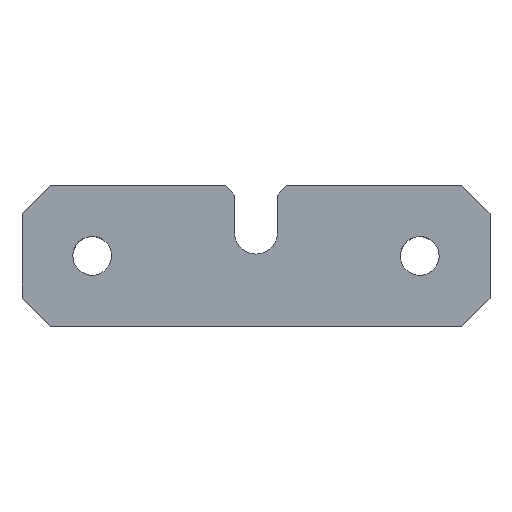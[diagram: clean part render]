
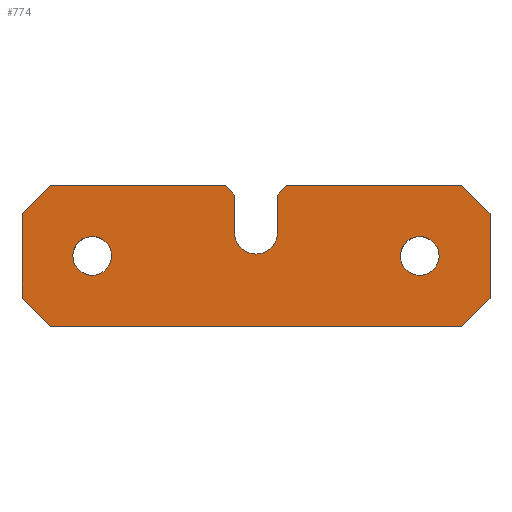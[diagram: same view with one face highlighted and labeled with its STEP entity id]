
A CAD part, top view. The second image highlights one B-rep face of the part: STEP entity #774.
In plain terms, the highlighted planar face has unit normal (0, 0, 1).
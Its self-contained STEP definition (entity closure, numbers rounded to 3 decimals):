
#61=CARTESIAN_POINT('Vertex',(19.314,-1.509,30.)) ;
#66=CARTESIAN_POINT('Axis2P3D Location',(17.5,-2.5,30.)) ;
#70=CARTESIAN_POINT('Vertex',(15.686,-3.491,30.)) ;
#92=CARTESIAN_POINT('Axis2P3D Location',(17.5,-2.5,30.)) ;
#127=CARTESIAN_POINT('Vertex',(-2.3,0.,30.)) ;
#130=CARTESIAN_POINT('Axis2P3D Location',(0.,0.,30.)) ;
#134=CARTESIAN_POINT('Vertex',(2.3,0.,30.)) ;
#260=CARTESIAN_POINT('Vertex',(-19.314,-3.491,30.)) ;
#265=CARTESIAN_POINT('Axis2P3D Location',(-17.5,-2.5,30.)) ;
#269=CARTESIAN_POINT('Vertex',(-15.686,-1.509,30.)) ;
#291=CARTESIAN_POINT('Axis2P3D Location',(-17.5,-2.5,30.)) ;
#317=CARTESIAN_POINT('Vertex',(22.,5.,30.)) ;
#322=CARTESIAN_POINT('Line Origine',(23.5,3.5,30.)) ;
#326=CARTESIAN_POINT('Vertex',(25.,2.,30.)) ;
#357=CARTESIAN_POINT('Vertex',(25.,-7.,30.)) ;
#367=CARTESIAN_POINT('Line Origine',(25.,-2.5,30.)) ;
#391=CARTESIAN_POINT('Line Origine',(23.5,-8.5,30.)) ;
#395=CARTESIAN_POINT('Vertex',(22.,-10.,30.)) ;
#419=CARTESIAN_POINT('Vertex',(-25.,2.,30.)) ;
#424=CARTESIAN_POINT('Line Origine',(-23.5,3.5,30.)) ;
#428=CARTESIAN_POINT('Vertex',(-22.,5.,30.)) ;
#462=CARTESIAN_POINT('Line Origine',(0.,-10.,30.)) ;
#466=CARTESIAN_POINT('Vertex',(-22.,-10.,30.)) ;
#490=CARTESIAN_POINT('Vertex',(-25.,-7.,30.)) ;
#495=CARTESIAN_POINT('Line Origine',(-25.,-2.5,30.)) ;
#560=CARTESIAN_POINT('Line Origine',(-23.5,-8.5,30.)) ;
#583=CARTESIAN_POINT('Vertex',(2.3,4.,30.)) ;
#591=CARTESIAN_POINT('Line Origine',(2.3,2.,30.)) ;
#614=CARTESIAN_POINT('Vertex',(3.3,5.,30.)) ;
#617=CARTESIAN_POINT('Line Origine',(12.65,5.,30.)) ;
#646=CARTESIAN_POINT('Line Origine',(2.8,4.5,30.)) ;
#663=CARTESIAN_POINT('Line Origine',(-2.3,2.,30.)) ;
#667=CARTESIAN_POINT('Vertex',(-2.3,4.,30.)) ;
#695=CARTESIAN_POINT('Vertex',(-3.3,5.,30.)) ;
#703=CARTESIAN_POINT('Line Origine',(-12.65,5.,30.)) ;
#740=CARTESIAN_POINT('Axis2P3D Location',(0.,0.,30.)) ;
#745=CARTESIAN_POINT('Line Origine',(-2.8,4.5,30.)) ;
#67=DIRECTION('Axis2P3D Direction',(0.,0.,1.)) ;
#93=DIRECTION('Axis2P3D Direction',(0.,0.,1.)) ;
#131=DIRECTION('Axis2P3D Direction',(0.,0.,1.)) ;
#266=DIRECTION('Axis2P3D Direction',(0.,-0.,1.)) ;
#292=DIRECTION('Axis2P3D Direction',(0.,-0.,1.)) ;
#323=DIRECTION('Vector Direction',(-0.707,0.707,0.)) ;
#368=DIRECTION('Vector Direction',(0.,1.,0.)) ;
#392=DIRECTION('Vector Direction',(-0.707,-0.707,0.)) ;
#425=DIRECTION('Vector Direction',(-0.707,-0.707,0.)) ;
#463=DIRECTION('Vector Direction',(-1.,0.,0.)) ;
#496=DIRECTION('Vector Direction',(0.,-1.,0.)) ;
#561=DIRECTION('Vector Direction',(0.707,-0.707,0.)) ;
#592=DIRECTION('Vector Direction',(0.,1.,0.)) ;
#618=DIRECTION('Vector Direction',(1.,0.,0.)) ;
#647=DIRECTION('Vector Direction',(0.707,0.707,0.)) ;
#664=DIRECTION('Vector Direction',(0.,1.,0.)) ;
#704=DIRECTION('Vector Direction',(1.,0.,0.)) ;
#741=DIRECTION('Axis2P3D Direction',(0.,0.,1.)) ;
#742=DIRECTION('Axis2P3D XDirection',(1.,0.,0.)) ;
#746=DIRECTION('Vector Direction',(0.707,-0.707,0.)) ;
#68=AXIS2_PLACEMENT_3D('Circle Axis2P3D',#66,#67,$) ;
#94=AXIS2_PLACEMENT_3D('Circle Axis2P3D',#92,#93,$) ;
#132=AXIS2_PLACEMENT_3D('Circle Axis2P3D',#130,#131,$) ;
#267=AXIS2_PLACEMENT_3D('Circle Axis2P3D',#265,#266,$) ;
#293=AXIS2_PLACEMENT_3D('Circle Axis2P3D',#291,#292,$) ;
#743=AXIS2_PLACEMENT_3D('Plane Axis2P3D',#740,#741,#742) ;
#751=ORIENTED_EDGE('',*,*,#707,.T.) ;
#752=ORIENTED_EDGE('',*,*,#430,.F.) ;
#753=ORIENTED_EDGE('',*,*,#499,.T.) ;
#754=ORIENTED_EDGE('',*,*,#564,.F.) ;
#755=ORIENTED_EDGE('',*,*,#468,.T.) ;
#756=ORIENTED_EDGE('',*,*,#397,.F.) ;
#757=ORIENTED_EDGE('',*,*,#371,.T.) ;
#758=ORIENTED_EDGE('',*,*,#328,.F.) ;
#759=ORIENTED_EDGE('',*,*,#621,.T.) ;
#760=ORIENTED_EDGE('',*,*,#650,.F.) ;
#761=ORIENTED_EDGE('',*,*,#595,.T.) ;
#762=ORIENTED_EDGE('',*,*,#136,.T.) ;
#763=ORIENTED_EDGE('',*,*,#669,.T.) ;
#764=ORIENTED_EDGE('',*,*,#749,.F.) ;
#767=ORIENTED_EDGE('',*,*,#96,.F.) ;
#768=ORIENTED_EDGE('',*,*,#72,.F.) ;
#771=ORIENTED_EDGE('',*,*,#295,.F.) ;
#772=ORIENTED_EDGE('',*,*,#271,.F.) ;
#769=FACE_BOUND('',#766,.T.) ;
#773=FACE_BOUND('',#770,.T.) ;
#324=VECTOR('Line Direction',#323,1.) ;
#369=VECTOR('Line Direction',#368,1.) ;
#393=VECTOR('Line Direction',#392,1.) ;
#426=VECTOR('Line Direction',#425,1.) ;
#464=VECTOR('Line Direction',#463,1.) ;
#497=VECTOR('Line Direction',#496,1.) ;
#562=VECTOR('Line Direction',#561,1.) ;
#593=VECTOR('Line Direction',#592,1.) ;
#619=VECTOR('Line Direction',#618,1.) ;
#648=VECTOR('Line Direction',#647,1.) ;
#665=VECTOR('Line Direction',#664,1.) ;
#705=VECTOR('Line Direction',#704,1.) ;
#747=VECTOR('Line Direction',#746,1.) ;
#774=ADVANCED_FACE('\X2\96F64EF651E04F554F53\X0\',(#765,#769,#773),#744,.T.) ;
#69=CIRCLE('generated circle',#68,2.067) ;
#95=CIRCLE('generated circle',#94,2.067) ;
#133=CIRCLE('generated circle',#132,2.3) ;
#268=CIRCLE('generated circle',#267,2.067) ;
#294=CIRCLE('generated circle',#293,2.067) ;
#72=EDGE_CURVE('',#62,#71,#69,.T.) ;
#96=EDGE_CURVE('',#71,#62,#95,.T.) ;
#136=EDGE_CURVE('',#135,#128,#133,.F.) ;
#271=EDGE_CURVE('',#261,#270,#268,.T.) ;
#295=EDGE_CURVE('',#270,#261,#294,.T.) ;
#328=EDGE_CURVE('',#318,#327,#325,.F.) ;
#371=EDGE_CURVE('',#358,#327,#370,.T.) ;
#397=EDGE_CURVE('',#358,#396,#394,.T.) ;
#430=EDGE_CURVE('',#420,#429,#427,.F.) ;
#468=EDGE_CURVE('',#467,#396,#465,.F.) ;
#499=EDGE_CURVE('',#420,#491,#498,.T.) ;
#564=EDGE_CURVE('',#467,#491,#563,.F.) ;
#595=EDGE_CURVE('',#584,#135,#594,.F.) ;
#621=EDGE_CURVE('',#318,#615,#620,.F.) ;
#650=EDGE_CURVE('',#584,#615,#649,.T.) ;
#669=EDGE_CURVE('',#128,#668,#666,.T.) ;
#707=EDGE_CURVE('',#696,#429,#706,.F.) ;
#749=EDGE_CURVE('',#696,#668,#748,.T.) ;
#750=EDGE_LOOP('',(#751,#752,#753,#754,#755,#756,#757,#758,#759,#760,#761,#762,#763,#764)) ;
#766=EDGE_LOOP('',(#767,#768)) ;
#770=EDGE_LOOP('',(#771,#772)) ;
#765=FACE_OUTER_BOUND('',#750,.T.) ;
#325=LINE('Line',#322,#324) ;
#370=LINE('Line',#367,#369) ;
#394=LINE('Line',#391,#393) ;
#427=LINE('Line',#424,#426) ;
#465=LINE('Line',#462,#464) ;
#498=LINE('Line',#495,#497) ;
#563=LINE('Line',#560,#562) ;
#594=LINE('Line',#591,#593) ;
#620=LINE('Line',#617,#619) ;
#649=LINE('Line',#646,#648) ;
#666=LINE('Line',#663,#665) ;
#706=LINE('Line',#703,#705) ;
#748=LINE('Line',#745,#747) ;
#744=PLANE('Plane',#743) ;
#62=VERTEX_POINT('',#61) ;
#71=VERTEX_POINT('',#70) ;
#128=VERTEX_POINT('',#127) ;
#135=VERTEX_POINT('',#134) ;
#261=VERTEX_POINT('',#260) ;
#270=VERTEX_POINT('',#269) ;
#318=VERTEX_POINT('',#317) ;
#327=VERTEX_POINT('',#326) ;
#358=VERTEX_POINT('',#357) ;
#396=VERTEX_POINT('',#395) ;
#420=VERTEX_POINT('',#419) ;
#429=VERTEX_POINT('',#428) ;
#467=VERTEX_POINT('',#466) ;
#491=VERTEX_POINT('',#490) ;
#584=VERTEX_POINT('',#583) ;
#615=VERTEX_POINT('',#614) ;
#668=VERTEX_POINT('',#667) ;
#696=VERTEX_POINT('',#695) ;
